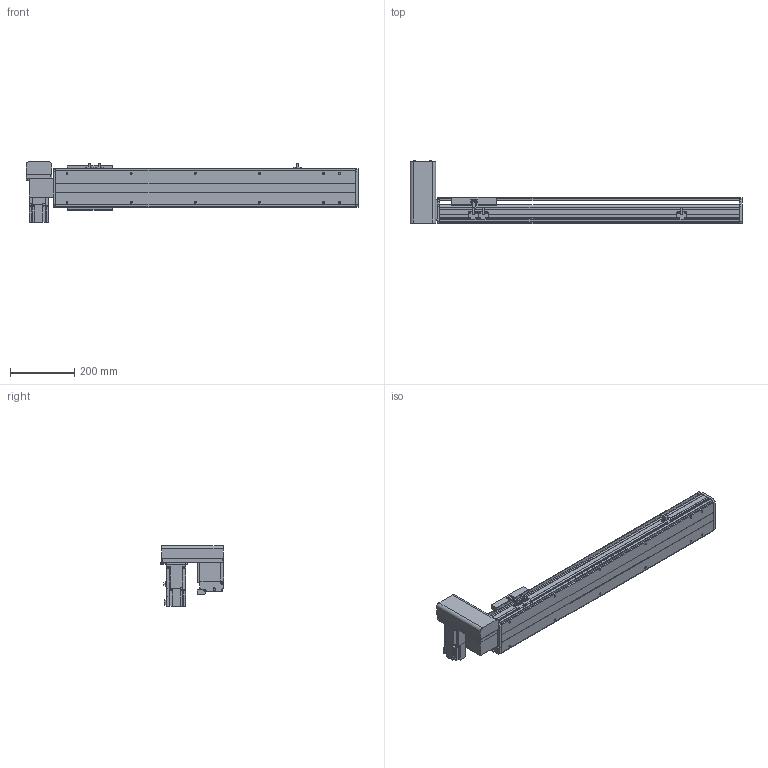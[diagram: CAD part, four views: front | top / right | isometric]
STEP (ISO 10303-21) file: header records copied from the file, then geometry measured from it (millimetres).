
FILE_DESCRIPTION(/* description */ ('STEP AP214'),/* implementation_level */ '2;1');
FILE_NAME(/* name */ 'PBS120-P40-S650-RU-T40-C1-N(0)',/* time_stamp */ '2022-06-06T02:49:03+02:00',/* author */ ('License CC BY-ND 4.0'),/* organization */ ('CADENAS'),/* preprocessor_version */ 'ST-DEVELOPER v18.102',/* originating_system */ 'PARTsolutions',/* authorisation */ ' ');
FILE_SCHEMA (('AUTOMOTIVE_DESIGN {1 0 10303 214 3 1 1}'));
Length unit declared in the file: millimetre
Products named in the file (7): PBS120-P40-S650-RU-T40-C1-N(0); PBS120_sensor; PBS120_plant; PBS120_sliser; T40-p1; PBS120T-RU_motors; PBS120-S650()_body
Assembly tree (8 placements, depth 2):
  PBS120-P40-S650-RU-T40-C1-N(0)
    PBS120_sensor  x3
    PBS120_plant
    PBS120_sliser
    T40-p1
    PBS120T-RU_motors
    PBS120-S650()_body
Bounding box: 1036 x 198 x 189.7 mm (x, y, z)
Volume: 4821851.7 mm3; surface area: 912546.3 mm2
Topology: 8 solids, 8 shells, 816 faces, 2136 edges, 1375 vertices
Faces by surface type: plane 545, cylinder 225, cone 44, torus 2
Full cylindrical faces by diameter (mm): 2.459 x6, 3.242 x4, 4 x2, 4.134 x4, 4.5 x10, 4.917 x16, 5.5 x11, 6 x2, 6.6 x1, 7 x2, 8.5 x4, 9 x4, 12 x1, 14 x1, 30 x2, 40 x1, 50 x2
Entity records: 21354 total; most frequent: DIRECTION 3692, CARTESIAN_POINT 3641, ORIENTED_EDGE 3478, EDGE_CURVE 1739, AXIS2_PLACEMENT_3D 1232, LINE 1228, VECTOR 1228, VERTEX_POINT 1181
